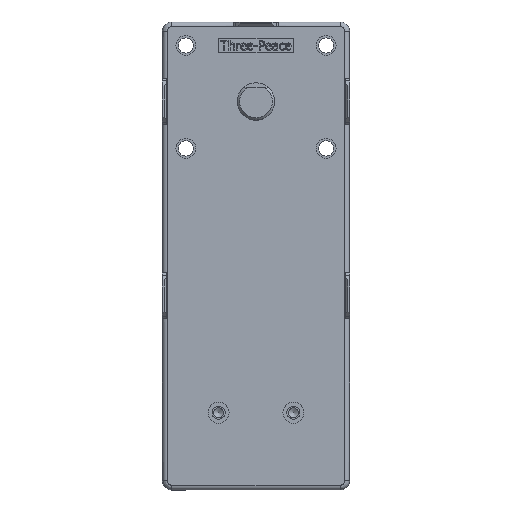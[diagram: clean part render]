
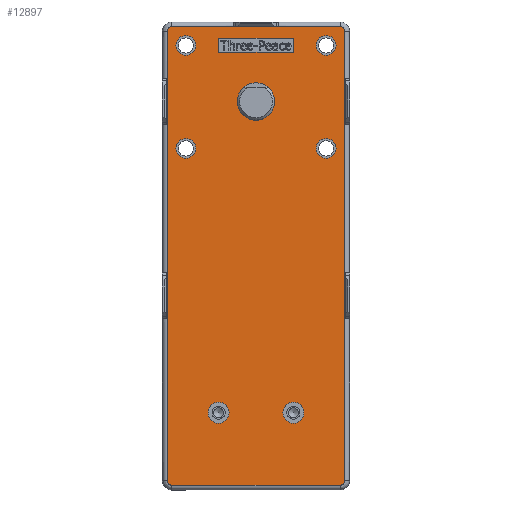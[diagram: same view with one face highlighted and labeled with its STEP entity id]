
A CAD part, top view. The second image highlights one B-rep face of the part: STEP entity #12897.
In plain terms, the highlighted planar face has unit normal (0, 0, 1) as drawn and (0, 0, -1) by its records, which use the part's own axes.
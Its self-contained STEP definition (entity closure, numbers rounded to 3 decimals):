
#745=CIRCLE('',#13785,1.);
#746=CIRCLE('',#13786,1.);
#747=CIRCLE('',#13787,1.);
#748=CIRCLE('',#13788,1.);
#749=CIRCLE('',#13789,2.1);
#750=CIRCLE('',#13790,2.1);
#751=CIRCLE('',#13791,2.1);
#752=CIRCLE('',#13792,2.1);
#753=CIRCLE('',#13793,2.25);
#754=CIRCLE('',#13794,2.25);
#755=CIRCLE('',#13795,4.);
#1105=FACE_BOUND('',#1962,.T.);
#1106=FACE_BOUND('',#1963,.T.);
#1107=FACE_BOUND('',#1964,.T.);
#1108=FACE_BOUND('',#1965,.T.);
#1109=FACE_BOUND('',#1966,.T.);
#1110=FACE_BOUND('',#1967,.T.);
#1111=FACE_BOUND('',#1968,.T.);
#1112=FACE_BOUND('',#1969,.T.);
#1214=FACE_OUTER_BOUND('',#1961,.T.);
#1961=EDGE_LOOP('',(#8613,#8614,#8615,#8616,#8617,#8618,#8619,#8620));
#1962=EDGE_LOOP('',(#8621,#8622,#8623,#8624));
#1963=EDGE_LOOP('',(#8625));
#1964=EDGE_LOOP('',(#8626));
#1965=EDGE_LOOP('',(#8627));
#1966=EDGE_LOOP('',(#8628));
#1967=EDGE_LOOP('',(#8629));
#1968=EDGE_LOOP('',(#8630));
#1969=EDGE_LOOP('',(#8631));
#2835=LINE('',#17547,#4106);
#2841=LINE('',#17572,#4112);
#2842=LINE('',#17576,#4113);
#2843=LINE('',#17581,#4114);
#2844=LINE('',#17585,#4115);
#2845=LINE('',#17587,#4116);
#2846=LINE('',#17589,#4117);
#2847=LINE('',#17590,#4118);
#4106=VECTOR('',#14623,10.);
#4112=VECTOR('',#14643,10.);
#4113=VECTOR('',#14646,10.);
#4114=VECTOR('',#14651,10.);
#4115=VECTOR('',#14654,10.);
#4116=VECTOR('',#14655,10.);
#4117=VECTOR('',#14656,10.);
#4118=VECTOR('',#14657,10.);
#5377=VERTEX_POINT('',#17545);
#5378=VERTEX_POINT('',#17546);
#5389=VERTEX_POINT('',#17570);
#5390=VERTEX_POINT('',#17571);
#5391=VERTEX_POINT('',#17573);
#5392=VERTEX_POINT('',#17575);
#5393=VERTEX_POINT('',#17578);
#5394=VERTEX_POINT('',#17580);
#5395=VERTEX_POINT('',#17583);
#5396=VERTEX_POINT('',#17584);
#5397=VERTEX_POINT('',#17586);
#5398=VERTEX_POINT('',#17588);
#5399=VERTEX_POINT('',#17591);
#5400=VERTEX_POINT('',#17593);
#5401=VERTEX_POINT('',#17595);
#5402=VERTEX_POINT('',#17597);
#5403=VERTEX_POINT('',#17599);
#5404=VERTEX_POINT('',#17601);
#5405=VERTEX_POINT('',#17603);
#6653=EDGE_CURVE('',#5377,#5378,#2835,.T.);
#6665=EDGE_CURVE('',#5389,#5390,#2841,.T.);
#6666=EDGE_CURVE('',#5391,#5389,#745,.T.);
#6667=EDGE_CURVE('',#5392,#5391,#2842,.T.);
#6668=EDGE_CURVE('',#5378,#5392,#746,.T.);
#6669=EDGE_CURVE('',#5393,#5377,#747,.T.);
#6670=EDGE_CURVE('',#5394,#5393,#2843,.T.);
#6671=EDGE_CURVE('',#5390,#5394,#748,.T.);
#6672=EDGE_CURVE('',#5395,#5396,#2844,.T.);
#6673=EDGE_CURVE('',#5396,#5397,#2845,.T.);
#6674=EDGE_CURVE('',#5397,#5398,#2846,.T.);
#6675=EDGE_CURVE('',#5398,#5395,#2847,.T.);
#6676=EDGE_CURVE('',#5399,#5399,#749,.T.);
#6677=EDGE_CURVE('',#5400,#5400,#750,.T.);
#6678=EDGE_CURVE('',#5401,#5401,#751,.T.);
#6679=EDGE_CURVE('',#5402,#5402,#752,.T.);
#6680=EDGE_CURVE('',#5403,#5403,#753,.T.);
#6681=EDGE_CURVE('',#5404,#5404,#754,.T.);
#6682=EDGE_CURVE('',#5405,#5405,#755,.T.);
#8613=ORIENTED_EDGE('',*,*,#6665,.F.);
#8614=ORIENTED_EDGE('',*,*,#6666,.F.);
#8615=ORIENTED_EDGE('',*,*,#6667,.F.);
#8616=ORIENTED_EDGE('',*,*,#6668,.F.);
#8617=ORIENTED_EDGE('',*,*,#6653,.F.);
#8618=ORIENTED_EDGE('',*,*,#6669,.F.);
#8619=ORIENTED_EDGE('',*,*,#6670,.F.);
#8620=ORIENTED_EDGE('',*,*,#6671,.F.);
#8621=ORIENTED_EDGE('',*,*,#6672,.T.);
#8622=ORIENTED_EDGE('',*,*,#6673,.T.);
#8623=ORIENTED_EDGE('',*,*,#6674,.T.);
#8624=ORIENTED_EDGE('',*,*,#6675,.T.);
#8625=ORIENTED_EDGE('',*,*,#6676,.T.);
#8626=ORIENTED_EDGE('',*,*,#6677,.T.);
#8627=ORIENTED_EDGE('',*,*,#6678,.T.);
#8628=ORIENTED_EDGE('',*,*,#6679,.T.);
#8629=ORIENTED_EDGE('',*,*,#6680,.T.);
#8630=ORIENTED_EDGE('',*,*,#6681,.T.);
#8631=ORIENTED_EDGE('',*,*,#6682,.T.);
#12474=PLANE('',#13784);
#12897=ADVANCED_FACE('',(#1214,#1105,#1106,#1107,#1108,#1109,#1110,#1111,
#1112),#12474,.F.);
#13784=AXIS2_PLACEMENT_3D('',#17569,#14641,#14642);
#13785=AXIS2_PLACEMENT_3D('',#17574,#14644,#14645);
#13786=AXIS2_PLACEMENT_3D('',#17577,#14647,#14648);
#13787=AXIS2_PLACEMENT_3D('',#17579,#14649,#14650);
#13788=AXIS2_PLACEMENT_3D('',#17582,#14652,#14653);
#13789=AXIS2_PLACEMENT_3D('',#17592,#14658,#14659);
#13790=AXIS2_PLACEMENT_3D('',#17594,#14660,#14661);
#13791=AXIS2_PLACEMENT_3D('',#17596,#14662,#14663);
#13792=AXIS2_PLACEMENT_3D('',#17598,#14664,#14665);
#13793=AXIS2_PLACEMENT_3D('',#17600,#14666,#14667);
#13794=AXIS2_PLACEMENT_3D('',#17602,#14668,#14669);
#13795=AXIS2_PLACEMENT_3D('',#17604,#14670,#14671);
#14623=DIRECTION('',(0.,1.,0.));
#14641=DIRECTION('center_axis',(0.,0.,1.));
#14642=DIRECTION('ref_axis',(1.,0.,0.));
#14643=DIRECTION('',(0.,-1.,0.));
#14644=DIRECTION('center_axis',(0.,0.,1.));
#14645=DIRECTION('ref_axis',(-0.707,0.707,0.));
#14646=DIRECTION('',(-1.,0.,0.));
#14647=DIRECTION('center_axis',(0.,0.,1.));
#14648=DIRECTION('ref_axis',(0.707,0.707,0.));
#14649=DIRECTION('center_axis',(0.,0.,1.));
#14650=DIRECTION('ref_axis',(0.707,-0.707,0.));
#14651=DIRECTION('',(1.,0.,0.));
#14652=DIRECTION('center_axis',(0.,0.,1.));
#14653=DIRECTION('ref_axis',(-0.707,-0.707,0.));
#14654=DIRECTION('',(-1.,0.,0.));
#14655=DIRECTION('',(0.,-1.,0.));
#14656=DIRECTION('',(1.,0.,0.));
#14657=DIRECTION('',(0.,1.,0.));
#14658=DIRECTION('center_axis',(0.,0.,1.));
#14659=DIRECTION('ref_axis',(1.,0.,0.));
#14660=DIRECTION('center_axis',(0.,0.,1.));
#14661=DIRECTION('ref_axis',(1.,0.,0.));
#14662=DIRECTION('center_axis',(0.,0.,1.));
#14663=DIRECTION('ref_axis',(1.,0.,0.));
#14664=DIRECTION('center_axis',(0.,0.,1.));
#14665=DIRECTION('ref_axis',(1.,0.,0.));
#14666=DIRECTION('center_axis',(0.,0.,1.));
#14667=DIRECTION('ref_axis',(1.,0.,0.));
#14668=DIRECTION('center_axis',(0.,0.,1.));
#14669=DIRECTION('ref_axis',(1.,0.,0.));
#14670=DIRECTION('center_axis',(0.,0.,1.));
#14671=DIRECTION('ref_axis',(-1.,0.,0.));
#17545=CARTESIAN_POINT('',(19.,-14.5,-12.7));
#17546=CARTESIAN_POINT('',(19.,81.5,-12.7));
#17547=CARTESIAN_POINT('',(19.,8.5,-12.7));
#17569=CARTESIAN_POINT('Origin',(0.,33.5,-12.7));
#17570=CARTESIAN_POINT('',(-19.,81.5,-12.7));
#17571=CARTESIAN_POINT('',(-19.,-14.5,-12.7));
#17572=CARTESIAN_POINT('',(-19.,58.5,-12.7));
#17573=CARTESIAN_POINT('',(-18.,82.5,-12.7));
#17574=CARTESIAN_POINT('Origin',(-18.,81.5,-12.7));
#17575=CARTESIAN_POINT('',(18.,82.5,-12.7));
#17576=CARTESIAN_POINT('',(10.,82.5,-12.7));
#17577=CARTESIAN_POINT('Origin',(18.,81.5,-12.7));
#17578=CARTESIAN_POINT('',(18.,-15.5,-12.7));
#17579=CARTESIAN_POINT('Origin',(18.,-14.5,-12.7));
#17580=CARTESIAN_POINT('',(-18.,-15.5,-12.7));
#17581=CARTESIAN_POINT('',(-10.,-15.5,-12.7));
#17582=CARTESIAN_POINT('Origin',(-18.,-14.5,-12.7));
#17583=CARTESIAN_POINT('',(8.,80.,-12.7));
#17584=CARTESIAN_POINT('',(-8.,80.,-12.7));
#17585=CARTESIAN_POINT('',(-4.,80.,-12.7));
#17586=CARTESIAN_POINT('',(-8.,77.,-12.7));
#17587=CARTESIAN_POINT('',(-8.,55.25,-12.7));
#17588=CARTESIAN_POINT('',(8.,77.,-12.7));
#17589=CARTESIAN_POINT('',(4.,77.,-12.7));
#17590=CARTESIAN_POINT('',(8.,56.75,-12.7));
#17591=CARTESIAN_POINT('',(-17.1,78.5,-12.7));
#17592=CARTESIAN_POINT('Origin',(-15.,78.5,-12.7));
#17593=CARTESIAN_POINT('',(12.9,78.5,-12.7));
#17594=CARTESIAN_POINT('Origin',(15.,78.5,-12.7));
#17595=CARTESIAN_POINT('',(-17.1,56.5,-12.7));
#17596=CARTESIAN_POINT('Origin',(-15.,56.5,-12.7));
#17597=CARTESIAN_POINT('',(12.9,56.5,-12.7));
#17598=CARTESIAN_POINT('Origin',(15.,56.5,-12.7));
#17599=CARTESIAN_POINT('',(-10.25,0.,-12.7));
#17600=CARTESIAN_POINT('Origin',(-8.,0.,-12.7));
#17601=CARTESIAN_POINT('',(5.75,0.,-12.7));
#17602=CARTESIAN_POINT('Origin',(8.,0.,-12.7));
#17603=CARTESIAN_POINT('',(4.,66.5,-12.7));
#17604=CARTESIAN_POINT('Origin',(0.,66.5,-12.7));
